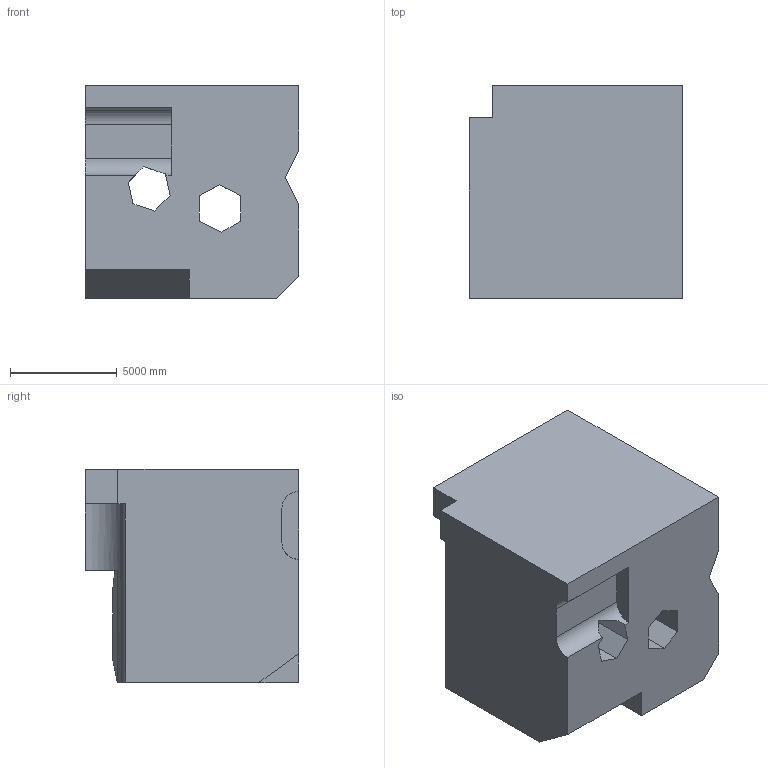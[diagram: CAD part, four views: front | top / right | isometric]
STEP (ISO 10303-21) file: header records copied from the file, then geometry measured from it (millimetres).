
FILE_DESCRIPTION (( 'STEP AP203' ), '1' );
FILE_NAME ('1895.STEP', '2022-08-23T09:11:25', ( 'user' ), ( '' ), 'SwSTEP 2.0', 'SolidWorks 2021', '' );
FILE_SCHEMA (( 'CONFIG_CONTROL_DESIGN' ));
Length unit declared in the file: centimetre
Products named in the file (1): 1895
Bounding box: 10000 x 10000 x 10000 mm (x, y, z)
Volume: 812681914119.6 mm3; surface area: 665293198.9 mm2
Topology: 1 solids, 1 shells, 37 faces, 114 edges, 76 vertices
Faces by surface type: plane 34, cylinder 3
Entity records: 1340 total; most frequent: CARTESIAN_POINT 237, ORIENTED_EDGE 228, DIRECTION 194, EDGE_CURVE 114, LINE 104, VECTOR 104, VERTEX_POINT 76, AXIS2_PLACEMENT_3D 45
